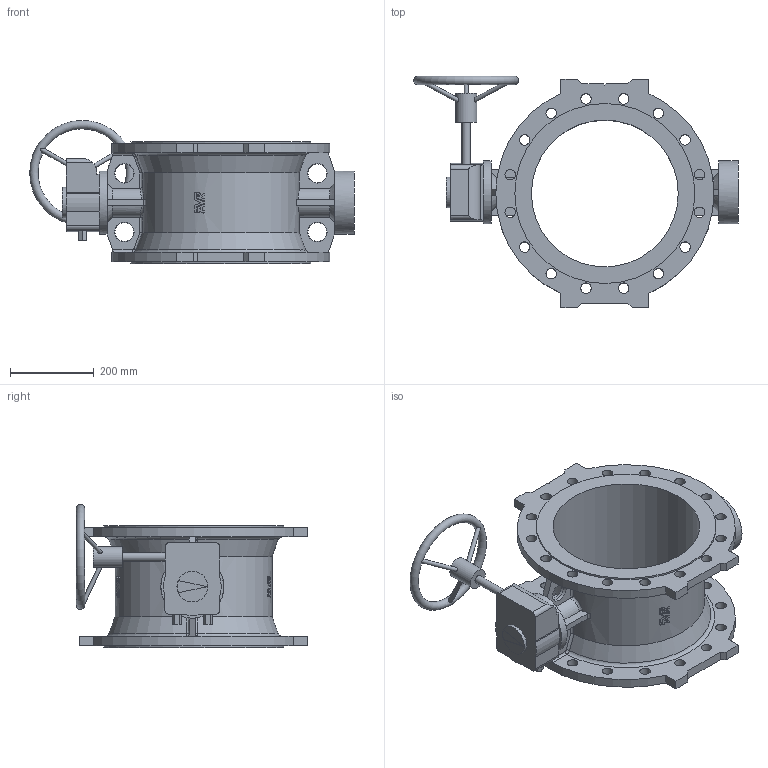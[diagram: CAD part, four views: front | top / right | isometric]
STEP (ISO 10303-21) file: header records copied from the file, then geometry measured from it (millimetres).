
FILE_DESCRIPTION (( 'STEP AP203' ), '1' );
FILE_NAME ('O_756_1_DN350_0XX00_AA0_step.step', '2016-03-04T11:38:10', ( 'Windows User' ), ( 'AVK' ), 'SwSTEP 2.0', 'SolidWorks 2012', '' );
FILE_SCHEMA (( 'CONFIG_CONTROL_DESIGN' ));
Length unit declared in the file: millimetre
Products named in the file (1): O_756_1_DN350_0XX00_AA0_step
Bounding box: 773.47 x 551.49 x 340.84 mm (x, y, z)
Volume: 14163204 mm3; surface area: 1441777.7 mm2
Topology: 1 solids, 1 shells, 375 faces, 1078 edges, 723 vertices
Faces by surface type: plane 177, bspline 88, cylinder 85, cone 20, torus 5
Full cylindrical faces by diameter (mm): 10 x3, 20 x1, 25 x32, 50 x1, 73 x1, 150 x2, 350 x1, 429 x2
Entity records: 17067 total; most frequent: CARTESIAN_POINT 8125, ORIENTED_EDGE 1980, DIRECTION 1457, EDGE_CURVE 990, VERTEX_POINT 687, EDGE_LOOP 523, LINE 499, VECTOR 499
